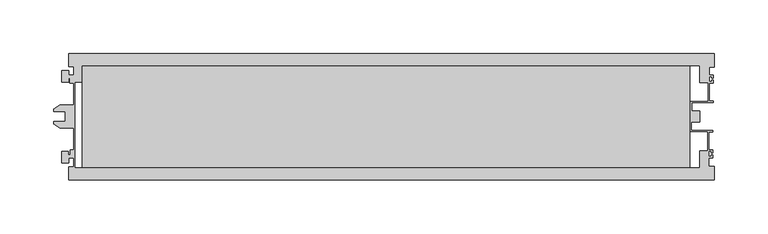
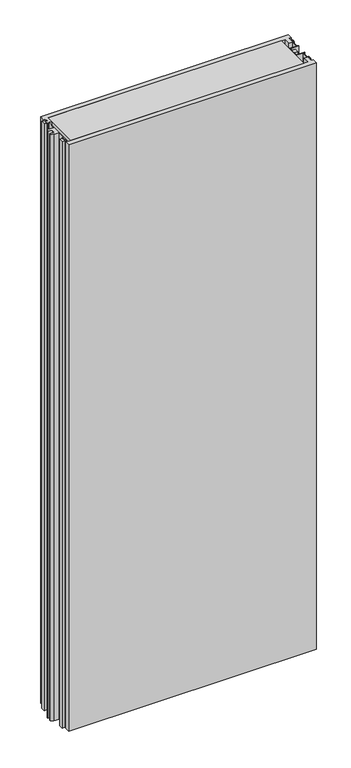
"""IFC4 building model written with IfcOpenShell, lengths in millimetres: plate geometry, Walls_External-Walls_Danpal_Danpatherm-K12 : Walls_External-Walls_Danpal_Danpatherm-K12."""

from ifc_helpers import new_model, si_unit, frame, origin, place, context, project, spatial, polyline, outline, extrude, source, transform, mapped, element, save


def plate_b84fe445(model_context):
    return source(origin(), model_context, "Body", "SweptSolid", [
        extrude(outline(polyline([(274.6184743, -11.5), (274.6184743, -105.9), (-289.8606362, -105.9), (-289.8606362, -11.5), (274.6184743, -11.5)])), frame((0.0, 0.0, -29.0), z_axis=(0.0, 0.0, 1.0), x_axis=(1.0, 0.0, 0.0)), (0.0, 0.0, 1.0), 1503.0059038),
        extrude(outline(polyline([(-302.5, 0.0), (297.5, 0.0), (297.5, -12.326688), (292.9651236, -12.3834733), (292.9652129, -19.8250352), (296.5652394, -19.8250352), (296.5652394, -22.6250436), (295.2652287, -22.6250436), (295.2652287, -21.1250724), (292.8652849, -21.1250724), (292.8652849, -26.1250508), (295.2652706, -26.1250508), (295.2652706, -24.6250436), (296.565297, -24.6250436), (296.565297, -27.4250712), (292.9653041, -27.4250712), (292.9655056, -44.2251011), (296.5655022, -44.2251011), (296.5655022, -45.5250406), (276.8654904, -45.5250406), (276.8654904, -53.3499188), (283.9999848, -53.3499188), (283.9999848, -63.5500812), (276.2999848, -63.5500812), (276.2999848, -71.3749594), (295.9999965, -71.3749594), (295.9999965, -72.6749349), (292.4, -72.6749349), (292.4, -89.4749648), (295.9999965, -89.4749648), (295.9999965, -92.2749648), (294.6999965, -92.2749648), (294.6999965, -90.7749648), (292.3, -90.7749648), (292.3, -95.7749648), (294.6999965, -95.7749648), (294.6999965, -94.2749648), (295.9999965, -94.2749648), (295.9999965, -97.0749648), (292.4, -97.0749648), (292.4, -104.9), (297.5, -104.9), (297.5, -117.4), (-302.5, -117.4), (-302.5, -105.4), (-297.4, -105.4), (-297.4, -97.0749648), (-302.4526316, -97.0749648), (-302.4526316, -101.6302279), (-308.9, -101.6302279), (-308.9, -91.0381227), (-302.5127555, -91.0381227), (-302.5127555, -94.0775963), (-300.9999965, -94.0775963), (-300.9999965, -89.4749648), (-297.4, -89.4749648), (-297.4, -69.2982521), (-310.7714928, -69.2982521), (-316.1600052, -65.3713202), (-316.1600052, -63.1232521), (-305.3266718, -63.1232521), (-305.3266718, -53.8499188), (-316.1600052, -53.8499188), (-316.1600052, -51.6018507), (-310.7714928, -47.6749188), (-297.7, -47.6749188), (-297.7, -27.4235008), (-301.407343, -27.4235008), (-301.407343, -22.8208692), (-302.5, -22.8208692), (-302.5, -26.3618773), (-308.8872445, -26.3618773), (-308.8872445, -15.7697721), (-302.439876, -15.7697721), (-302.439876, -19.8235008), (-297.8073464, -19.8235008), (-297.8073464, -12.0), (-302.5, -12.0), (-302.5, 0.0)]), holes=[polyline([(283.6999848, -11.5), (-289.8606362, -11.5), (-289.8606362, -27.0), (-296.4452172, -27.0), (-296.4452172, -105.9), (283.4884259, -105.9), (283.5512195, -89.9), (291.0, -89.9), (291.0, -72.9749349), (274.6184743, -72.9749349), (274.6184743, -44.143617), (291.5655046, -44.143617), (291.5655046, -27.4021751), (283.66868, -27.5010583), (283.6999848, -11.5)])]), frame((0.0, 0.0, -29.0), z_axis=(0.0, 0.0, 1.0), x_axis=(1.0, 0.0, 0.0)), (0.0, 0.0, 1.0), 1503.0059038),
    ])


if __name__ == "__main__":
    model = new_model("IFC4")
    model_context = context("Model", 3, world=origin())
    ifc_project = project(units=[si_unit("LENGTHUNIT", "METRE", prefix="MILLI")], contexts=[model_context])
    site = spatial("IfcSite", under=ifc_project)
    building = spatial("IfcBuilding", under=site)
    placement = place(None, origin())
    plate_shape = plate_b84fe445(model_context)
    element("IfcPlate", 1, ObjectType="Walls_External-Walls_Danpal_Danpatherm-K12 : Walls_External-Walls_Danpal_Danpatherm-K12", at=placement, inside=building, context=model_context, shape_type="MappedRepresentation", body=[
        mapped(plate_shape, transform((0.0, 0.0, 0.0), x_axis=(1.0, 0.0, 0.0), y_axis=(0.0, 1.0, 0.0), z_axis=(0.0, 0.0, 1.0))),
    ])
    save(model, "model.ifc")
